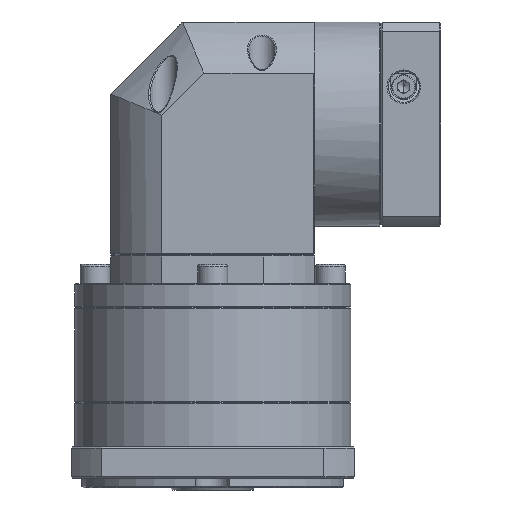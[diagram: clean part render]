
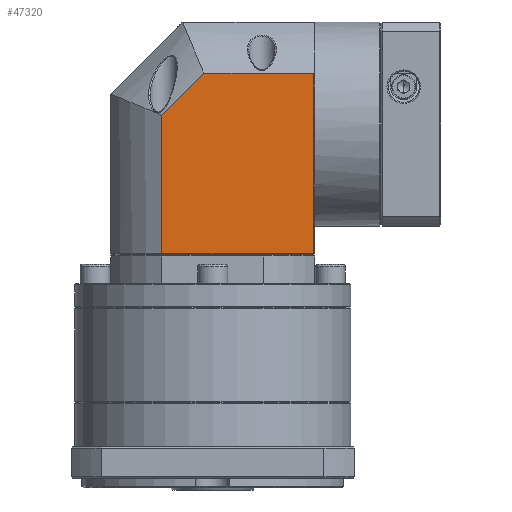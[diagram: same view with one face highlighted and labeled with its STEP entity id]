
A CAD part, front view. The second image highlights one B-rep face of the part: STEP entity #47320.
In plain terms, the highlighted planar face has unit normal (0, -1, 0).
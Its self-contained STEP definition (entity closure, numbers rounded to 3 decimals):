
#41 = LINE ( 'NONE', #96721, #58639 ) ;
#5968 = CARTESIAN_POINT ( 'NONE',  ( 113.296, 20.798, 25.395 ) ) ;
#11704 = LINE ( 'NONE', #38283, #70309 ) ;
#17218 = VERTEX_POINT ( 'NONE', #77492 ) ;
#18211 = CARTESIAN_POINT ( 'NONE',  ( 113.296, 20.798, -49.818 ) ) ;
#25153 = CARTESIAN_POINT ( 'NONE',  ( 50.083, 20.798, 7.864 ) ) ;
#33177 = CARTESIAN_POINT ( 'NONE',  ( 50.083, 20.798, -49.818 ) ) ;
#34748 = ORIENTED_EDGE ( 'NONE', *, *, #40220, .F. ) ;
#38283 = CARTESIAN_POINT ( 'NONE',  ( 50.083, 20.798, 46.682 ) ) ;
#38469 = ORIENTED_EDGE ( 'NONE', *, *, #88305, .F. ) ;
#39775 = CARTESIAN_POINT ( 'NONE',  ( 113.796, 20.798, 25.395 ) ) ;
#40220 = EDGE_CURVE ( 'NONE', #56334, #17218, #11704, .T. ) ;
#47320 = ADVANCED_FACE ( 'NONE', ( #105418 ), #99280, .F. ) ;
#48087 = CARTESIAN_POINT ( 'NONE',  ( 67.613, 20.798, 25.395 ) ) ;
#48772 = DIRECTION ( 'NONE',  ( 0., 0., 1. ) ) ;
#49364 = DIRECTION ( 'NONE',  ( -1., 0., 0. ) ) ;
#50784 = ORIENTED_EDGE ( 'NONE', *, *, #131100, .T. ) ;
#53812 = VECTOR ( 'NONE', #121939, 1000. ) ;
#54791 = ORIENTED_EDGE ( 'NONE', *, *, #60946, .F. ) ;
#55600 = LINE ( 'NONE', #25153, #131920 ) ;
#56334 = VERTEX_POINT ( 'NONE', #33177 ) ;
#58639 = VECTOR ( 'NONE', #75959, 1000. ) ;
#59793 = DIRECTION ( 'NONE',  ( 0., 1., 0. ) ) ;
#60180 = VERTEX_POINT ( 'NONE', #5968 ) ;
#60946 = EDGE_CURVE ( 'NONE', #126083, #60180, #122095, .T. ) ;
#64106 = EDGE_CURVE ( 'NONE', #17218, #126083, #55600, .T. ) ;
#68297 = AXIS2_PLACEMENT_3D ( 'NONE', #111548, #59793, #49364 ) ;
#70309 = VECTOR ( 'NONE', #48772, 1000. ) ;
#75959 = DIRECTION ( 'NONE',  ( 1., 0., 0. ) ) ;
#77492 = CARTESIAN_POINT ( 'NONE',  ( 50.083, 20.798, 7.864 ) ) ;
#83048 = VERTEX_POINT ( 'NONE', #18211 ) ;
#83130 = ORIENTED_EDGE ( 'NONE', *, *, #64106, .F. ) ;
#88305 = EDGE_CURVE ( 'NONE', #60180, #83048, #98323, .T. ) ;
#96721 = CARTESIAN_POINT ( 'NONE',  ( 113.796, 20.798, -49.818 ) ) ;
#98323 = LINE ( 'NONE', #116925, #100019 ) ;
#99280 = PLANE ( 'NONE',  #68297 ) ;
#100019 = VECTOR ( 'NONE', #108307, 1000. ) ;
#105418 = FACE_OUTER_BOUND ( 'NONE', #130092, .T. ) ;
#108307 = DIRECTION ( 'NONE',  ( 0., 0., -1. ) ) ;
#111548 = CARTESIAN_POINT ( 'NONE',  ( 113.796, 20.798, 46.682 ) ) ;
#116925 = CARTESIAN_POINT ( 'NONE',  ( 113.296, 20.798, 46.682 ) ) ;
#120036 = DIRECTION ( 'NONE',  ( 0.707, 0., 0.707 ) ) ;
#121939 = DIRECTION ( 'NONE',  ( 1., 0., 0. ) ) ;
#122095 = LINE ( 'NONE', #39775, #53812 ) ;
#126083 = VERTEX_POINT ( 'NONE', #48087 ) ;
#130092 = EDGE_LOOP ( 'NONE', ( #50784, #38469, #54791, #83130, #34748 ) ) ;
#131100 = EDGE_CURVE ( 'NONE', #56334, #83048, #41, .T. ) ;
#131920 = VECTOR ( 'NONE', #120036, 1000. ) ;
